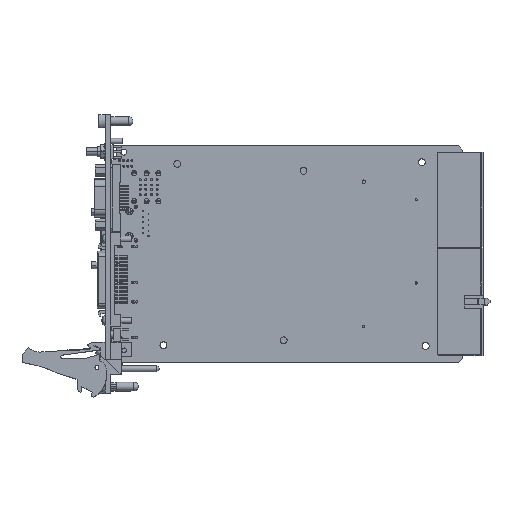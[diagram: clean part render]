
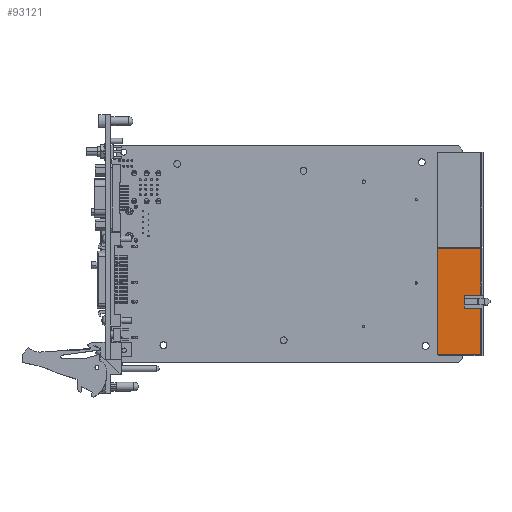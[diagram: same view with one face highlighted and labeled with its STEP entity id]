
A CAD part, top view. The second image highlights one B-rep face of the part: STEP entity #93121.
In plain terms, the highlighted planar face has unit normal (0, 0, 1).
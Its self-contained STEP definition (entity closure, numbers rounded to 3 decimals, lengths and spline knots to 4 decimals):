
#8106=DIRECTION('',(1.,0.,0.));
#8107=VECTOR('',#8106,0.7776);
#8108=CARTESIAN_POINT('',(5.8456,-3.7995,
0.3943));
#8109=LINE('',#8108,#8107);
#8118=DIRECTION('',(1.,0.,0.));
#8119=VECTOR('',#8118,0.7776);
#8120=CARTESIAN_POINT('',(5.8456,-1.8704,
0.3943));
#8121=LINE('',#8120,#8119);
#8442=DIRECTION('',(0.,1.,0.));
#8443=VECTOR('',#8442,0.8446);
#8444=CARTESIAN_POINT('',(6.6231,-3.7995,
0.3943));
#8445=LINE('',#8444,#8443);
#8446=DIRECTION('',(-1.,0.,0.));
#8447=VECTOR('',#8446,0.3031);
#8448=CARTESIAN_POINT('',(6.6231,-2.715,
0.3943));
#8449=LINE('',#8448,#8447);
#8450=DIRECTION('',(0.,-1.,0.));
#8451=VECTOR('',#8450,0.06);
#8452=CARTESIAN_POINT('',(6.32,-2.715,
0.3943));
#8453=LINE('',#8452,#8451);
#8454=DIRECTION('',(0.,-1.,0.));
#8455=VECTOR('',#8454,0.06);
#8456=CARTESIAN_POINT('',(6.32,-2.895,
0.3943));
#8457=LINE('',#8456,#8455);
#8458=DIRECTION('',(-1.,0.,0.));
#8459=VECTOR('',#8458,0.3031);
#8460=CARTESIAN_POINT('',(6.6231,-2.955,
0.3943));
#8461=LINE('',#8460,#8459);
#8462=DIRECTION('',(0.,1.,0.));
#8463=VECTOR('',#8462,1.9291);
#8464=CARTESIAN_POINT('',(5.8456,-3.7995,
0.3943));
#8465=LINE('',#8464,#8463);
#8510=DIRECTION('',(0.,1.,0.));
#8511=VECTOR('',#8510,0.12);
#8512=CARTESIAN_POINT('',(6.32,-2.895,
0.3943));
#8513=LINE('',#8512,#8511);
#8534=DIRECTION('',(0.,1.,0.));
#8535=VECTOR('',#8534,0.8446);
#8536=CARTESIAN_POINT('',(6.6231,-2.715,
0.3943));
#8537=LINE('',#8536,#8535);
#68100=CARTESIAN_POINT('',(5.8456,-3.7995,
0.3943));
#68101=CARTESIAN_POINT('',(6.6231,-3.7995,
0.3943));
#68102=VERTEX_POINT('',#68100);
#68103=VERTEX_POINT('',#68101);
#68104=CARTESIAN_POINT('',(5.8456,-1.8704,
0.3943));
#68105=CARTESIAN_POINT('',(6.6231,-1.8704,
0.3943));
#68106=VERTEX_POINT('',#68104);
#68107=VERTEX_POINT('',#68105);
#68116=CARTESIAN_POINT('',(6.6231,-2.715,
0.3943));
#68117=CARTESIAN_POINT('',(6.32,-2.715,
0.3943));
#68118=VERTEX_POINT('',#68116);
#68119=VERTEX_POINT('',#68117);
#68120=CARTESIAN_POINT('',(6.32,-2.775,
0.3943));
#68121=VERTEX_POINT('',#68120);
#68122=CARTESIAN_POINT('',(6.6231,-2.955,
0.3943));
#68123=CARTESIAN_POINT('',(6.32,-2.955,
0.3943));
#68124=VERTEX_POINT('',#68122);
#68125=VERTEX_POINT('',#68123);
#68126=CARTESIAN_POINT('',(6.32,-2.895,
0.3943));
#68127=VERTEX_POINT('',#68126);
#93100=CARTESIAN_POINT('',(5.8456,-3.7995,
0.3943));
#93101=DIRECTION('',(0.,0.,1.));
#93102=DIRECTION('',(1.,0.,0.));
#93103=AXIS2_PLACEMENT_3D('',#93100,#93101,#93102);
#93104=PLANE('',#93103);
#93106=ORIENTED_EDGE('',*,*,#93105,.T.);
#93108=ORIENTED_EDGE('',*,*,#93107,.T.);
#93110=ORIENTED_EDGE('',*,*,#93109,.F.);
#93111=ORIENTED_EDGE('',*,*,#93039,.T.);
#93112=ORIENTED_EDGE('',*,*,#93056,.F.);
#93113=ORIENTED_EDGE('',*,*,#93095,.F.);
#93114=ORIENTED_EDGE('',*,*,#92592,.F.);
#93115=ORIENTED_EDGE('',*,*,#92610,.T.);
#93116=ORIENTED_EDGE('',*,*,#92628,.T.);
#93118=ORIENTED_EDGE('',*,*,#93117,.F.);
#93119=EDGE_LOOP('',(#93106,#93108,#93110,#93111,#93112,#93113,#93114,#93115,
#93116,#93118));
#93120=FACE_OUTER_BOUND('',#93119,.F.);
#93121=ADVANCED_FACE('',(#93120),#93104,.T.);
#92592=EDGE_CURVE('',#68102,#68103,#8109,.T.);
#92610=EDGE_CURVE('',#68102,#68106,#8465,.T.);
#92628=EDGE_CURVE('',#68106,#68107,#8121,.T.);
#93039=EDGE_CURVE('',#68127,#68125,#8457,.T.);
#93056=EDGE_CURVE('',#68124,#68125,#8461,.T.);
#93095=EDGE_CURVE('',#68103,#68124,#8445,.T.);
#93105=EDGE_CURVE('',#68118,#68119,#8449,.T.);
#93107=EDGE_CURVE('',#68119,#68121,#8453,.T.);
#93109=EDGE_CURVE('',#68127,#68121,#8513,.T.);
#93117=EDGE_CURVE('',#68118,#68107,#8537,.T.);
